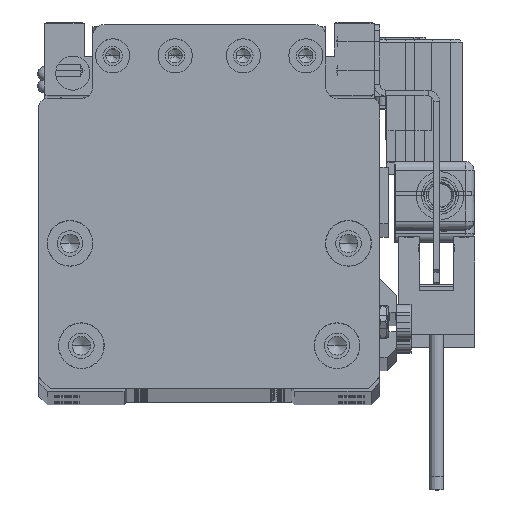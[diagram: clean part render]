
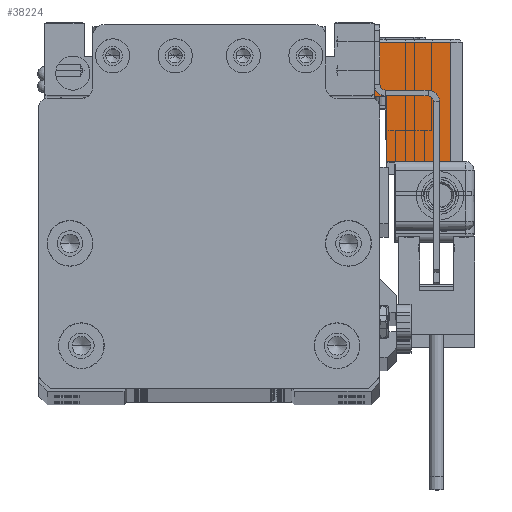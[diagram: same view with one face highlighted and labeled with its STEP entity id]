
A CAD part, top view. The second image highlights one B-rep face of the part: STEP entity #38224.
In plain terms, the highlighted planar face has unit normal (0, 0, 1) as drawn and (-1, 0, 0) by its records, which use the part's own axes.
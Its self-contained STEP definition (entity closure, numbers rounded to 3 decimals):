
#98 = VERTEX_POINT ( 'NONE', #31536 ) ;
#1575 = CARTESIAN_POINT ( 'NONE',  ( -17., -10.75, -2. ) ) ;
#1771 = LINE ( 'NONE', #73785, #55490 ) ;
#1897 = ORIENTED_EDGE ( 'NONE', *, *, #61795, .T. ) ;
#3329 = VERTEX_POINT ( 'NONE', #26554 ) ;
#3423 = AXIS2_PLACEMENT_3D ( 'NONE', #45643, #70540, #70161 ) ;
#6424 = LINE ( 'NONE', #12474, #43209 ) ;
#7043 = CARTESIAN_POINT ( 'NONE',  ( -17., 10.25, -15.5 ) ) ;
#7193 = PLANE ( 'NONE',  #3423 ) ;
#8425 = VECTOR ( 'NONE', #28465, 1000. ) ;
#11487 = VECTOR ( 'NONE', #38395, 1000. ) ;
#12474 = CARTESIAN_POINT ( 'NONE',  ( -17., -10.75, -15.5 ) ) ;
#12874 = EDGE_CURVE ( 'NONE', #48874, #24191, #37800, .T. ) ;
#12925 = EDGE_CURVE ( 'NONE', #3329, #98, #40148, .T. ) ;
#13090 = ORIENTED_EDGE ( 'NONE', *, *, #12874, .T. ) ;
#21935 = VECTOR ( 'NONE', #26530, 1000. ) ;
#24191 = VERTEX_POINT ( 'NONE', #7043 ) ;
#25508 = DIRECTION ( 'NONE',  ( 0., -1., 0. ) ) ;
#26530 = DIRECTION ( 'NONE',  ( 0., 0., -1. ) ) ;
#26554 = CARTESIAN_POINT ( 'NONE',  ( -17., 0.75, -15.5 ) ) ;
#28465 = DIRECTION ( 'NONE',  ( 0., -1., 0. ) ) ;
#30117 = CARTESIAN_POINT ( 'NONE',  ( -17., 10.25, -2. ) ) ;
#31536 = CARTESIAN_POINT ( 'NONE',  ( -17., 0.75, -13.3 ) ) ;
#32963 = ORIENTED_EDGE ( 'NONE', *, *, #12925, .T. ) ;
#33564 = CARTESIAN_POINT ( 'NONE',  ( -17., 10.75, -2. ) ) ;
#34531 = CARTESIAN_POINT ( 'NONE',  ( -17., 0.75, -15.5 ) ) ;
#37800 = LINE ( 'NONE', #62710, #21935 ) ;
#38224 = ADVANCED_FACE ( 'NONE', ( #51638 ), #7193, .T. ) ;
#38395 = DIRECTION ( 'NONE',  ( 0., 1., 0. ) ) ;
#38798 = LINE ( 'NONE', #33564, #11487 ) ;
#40148 = LINE ( 'NONE', #34531, #69452 ) ;
#43209 = VECTOR ( 'NONE', #66741, 1000. ) ;
#45643 = CARTESIAN_POINT ( 'NONE',  ( -17., -10.75, -15.5 ) ) ;
#48874 = VERTEX_POINT ( 'NONE', #30117 ) ;
#51638 = FACE_OUTER_BOUND ( 'NONE', #70384, .T. ) ;
#55142 = ORIENTED_EDGE ( 'NONE', *, *, #74637, .T. ) ;
#55198 = EDGE_CURVE ( 'NONE', #77917, #48874, #38798, .T. ) ;
#55490 = VECTOR ( 'NONE', #25508, 1000. ) ;
#59462 = DIRECTION ( 'NONE',  ( 0., 0., 1. ) ) ;
#59464 = ORIENTED_EDGE ( 'NONE', *, *, #66572, .T. ) ;
#61795 = EDGE_CURVE ( 'NONE', #98, #79005, #1771, .T. ) ;
#62710 = CARTESIAN_POINT ( 'NONE',  ( -17., 10.25, -15.5 ) ) ;
#66572 = EDGE_CURVE ( 'NONE', #79005, #77917, #6424, .T. ) ;
#66741 = DIRECTION ( 'NONE',  ( 0., 0., 1. ) ) ;
#69452 = VECTOR ( 'NONE', #59462, 1000. ) ;
#69924 = CARTESIAN_POINT ( 'NONE',  ( -17., -10.75, -13.3 ) ) ;
#70161 = DIRECTION ( 'NONE',  ( 0., 0., 1. ) ) ;
#70246 = ORIENTED_EDGE ( 'NONE', *, *, #55198, .T. ) ;
#70384 = EDGE_LOOP ( 'NONE', ( #70246, #13090, #55142, #32963, #1897, #59464 ) ) ;
#70540 = DIRECTION ( 'NONE',  ( -1., 0., 0. ) ) ;
#70669 = LINE ( 'NONE', #71877, #8425 ) ;
#71877 = CARTESIAN_POINT ( 'NONE',  ( -17., -10.75, -15.5 ) ) ;
#73785 = CARTESIAN_POINT ( 'NONE',  ( -17., -10.75, -13.3 ) ) ;
#74637 = EDGE_CURVE ( 'NONE', #24191, #3329, #70669, .T. ) ;
#77917 = VERTEX_POINT ( 'NONE', #1575 ) ;
#79005 = VERTEX_POINT ( 'NONE', #69924 ) ;
